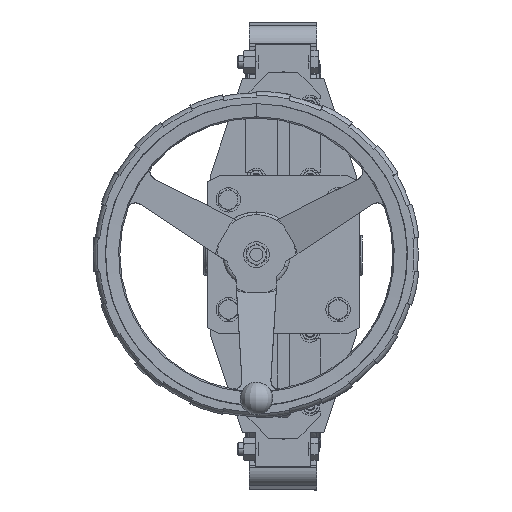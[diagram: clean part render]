
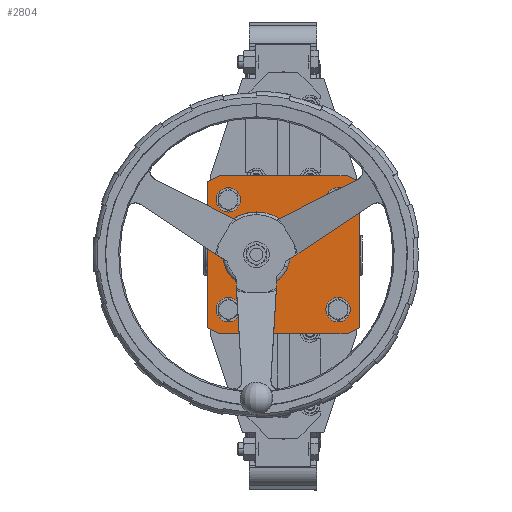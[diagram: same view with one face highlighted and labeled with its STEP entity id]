
A CAD part, top view. The second image highlights one B-rep face of the part: STEP entity #2804.
In plain terms, the highlighted planar face has unit normal (0, 0, 1).
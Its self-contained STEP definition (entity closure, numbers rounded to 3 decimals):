
#2804=ADVANCED_FACE('',(#8191,#8192,#8193,#8194,#8195,#8196),#8197,.F.);
#8191=FACE_BOUND('',#14197,.T.);
#8192=FACE_OUTER_BOUND('',#14198,.T.);
#8193=FACE_BOUND('',#14199,.T.);
#8194=FACE_BOUND('',#14200,.T.);
#8195=FACE_BOUND('',#14201,.T.);
#8196=FACE_BOUND('',#14202,.T.);
#8197=PLANE('',#14203);
#14197=EDGE_LOOP('',(#35570,#35571));
#14198=EDGE_LOOP('',(#35572,#35573,#35574,#35575,#35576,#35577,#35578,#35579));
#14199=EDGE_LOOP('',(#35580,#35581));
#14200=EDGE_LOOP('',(#35582,#35583));
#14201=EDGE_LOOP('',(#35584,#35585));
#14202=EDGE_LOOP('',(#35586,#35587));
#14203=AXIS2_PLACEMENT_3D('',#35588,#35589,#35590);
#35570=ORIENTED_EDGE('',*,*,#44202,.F.);
#35571=ORIENTED_EDGE('',*,*,#38776,.F.);
#35572=ORIENTED_EDGE('',*,*,#44050,.F.);
#35573=ORIENTED_EDGE('',*,*,#44049,.F.);
#35574=ORIENTED_EDGE('',*,*,#44046,.F.);
#35575=ORIENTED_EDGE('',*,*,#44044,.F.);
#35576=ORIENTED_EDGE('',*,*,#44042,.F.);
#35577=ORIENTED_EDGE('',*,*,#44041,.F.);
#35578=ORIENTED_EDGE('',*,*,#44038,.F.);
#35579=ORIENTED_EDGE('',*,*,#44036,.F.);
#35580=ORIENTED_EDGE('',*,*,#44034,.F.);
#35581=ORIENTED_EDGE('',*,*,#38788,.F.);
#35582=ORIENTED_EDGE('',*,*,#44033,.F.);
#35583=ORIENTED_EDGE('',*,*,#38792,.F.);
#35584=ORIENTED_EDGE('',*,*,#44032,.F.);
#35585=ORIENTED_EDGE('',*,*,#38796,.F.);
#35586=ORIENTED_EDGE('',*,*,#44031,.F.);
#35587=ORIENTED_EDGE('',*,*,#38800,.F.);
#35588=CARTESIAN_POINT('',(0.,0.,891.1));
#35589=DIRECTION('',(0.,0.,-1.));
#35590=DIRECTION('',(0.,1.,0.));
#38776=EDGE_CURVE('',#48010,#48006,#48012,.T.);
#38788=EDGE_CURVE('',#48033,#48029,#48035,.T.);
#38792=EDGE_CURVE('',#48041,#48037,#48043,.T.);
#38796=EDGE_CURVE('',#48049,#48045,#48051,.T.);
#38800=EDGE_CURVE('',#48057,#48053,#48059,.T.);
#44031=EDGE_CURVE('',#48053,#48057,#56508,.T.);
#44032=EDGE_CURVE('',#48045,#48049,#56509,.T.);
#44033=EDGE_CURVE('',#48037,#48041,#56510,.T.);
#44034=EDGE_CURVE('',#48029,#48033,#56511,.T.);
#44036=EDGE_CURVE('',#56512,#56514,#56515,.T.);
#44038=EDGE_CURVE('',#56514,#56517,#56518,.T.);
#44041=EDGE_CURVE('',#56517,#56520,#56522,.T.);
#44042=EDGE_CURVE('',#56520,#56523,#56524,.T.);
#44044=EDGE_CURVE('',#56523,#56526,#56527,.T.);
#44046=EDGE_CURVE('',#56526,#56529,#56530,.T.);
#44049=EDGE_CURVE('',#56529,#56532,#56534,.T.);
#44050=EDGE_CURVE('',#56532,#56512,#56535,.T.);
#44202=EDGE_CURVE('',#48006,#48010,#56747,.T.);
#48006=VERTEX_POINT('',#59659);
#48010=VERTEX_POINT('',#59664);
#48012=CIRCLE('',#59667,27.5);
#48029=VERTEX_POINT('',#59688);
#48033=VERTEX_POINT('',#59693);
#48035=CIRCLE('',#59696,15.);
#48037=VERTEX_POINT('',#59698);
#48041=VERTEX_POINT('',#59703);
#48043=CIRCLE('',#59706,15.);
#48045=VERTEX_POINT('',#59708);
#48049=VERTEX_POINT('',#59713);
#48051=CIRCLE('',#59716,15.);
#48053=VERTEX_POINT('',#59718);
#48057=VERTEX_POINT('',#59723);
#48059=CIRCLE('',#59726,15.);
#56508=CIRCLE('',#83673,15.);
#56509=CIRCLE('',#83674,15.);
#56510=CIRCLE('',#83675,15.);
#56511=CIRCLE('',#83676,15.);
#56512=VERTEX_POINT('',#83677);
#56514=VERTEX_POINT('',#83680);
#56515=LINE('',#83681,#83682);
#56517=VERTEX_POINT('',#83685);
#56518=LINE('',#83686,#83687);
#56520=VERTEX_POINT('',#83690);
#56522=LINE('',#83693,#83694);
#56523=VERTEX_POINT('',#83695);
#56524=LINE('',#83696,#83697);
#56526=VERTEX_POINT('',#83700);
#56527=LINE('',#83701,#83702);
#56529=VERTEX_POINT('',#83705);
#56530=LINE('',#83706,#83707);
#56532=VERTEX_POINT('',#83710);
#56534=LINE('',#83713,#83714);
#56535=LINE('',#83715,#83716);
#56747=CIRCLE('',#83988,27.5);
#59659=CARTESIAN_POINT('',(-5.5,0.,891.1));
#59664=CARTESIAN_POINT('',(-60.5,0.,891.1));
#59667=AXIS2_PLACEMENT_3D('',#88226,#88227,#88228);
#59688=CARTESIAN_POINT('',(-67.5,-82.5,891.1));
#59693=CARTESIAN_POINT('',(-67.5,-52.5,891.1));
#59696=AXIS2_PLACEMENT_3D('',#88250,#88251,#88252);
#59698=CARTESIAN_POINT('',(-67.5,52.5,891.1));
#59703=CARTESIAN_POINT('',(-67.5,82.5,891.1));
#59706=AXIS2_PLACEMENT_3D('',#88258,#88259,#88260);
#59708=CARTESIAN_POINT('',(67.5,52.5,891.1));
#59713=CARTESIAN_POINT('',(67.5,82.5,891.1));
#59716=AXIS2_PLACEMENT_3D('',#88266,#88267,#88268);
#59718=CARTESIAN_POINT('',(67.5,-82.5,891.1));
#59723=CARTESIAN_POINT('',(67.5,-52.5,891.1));
#59726=AXIS2_PLACEMENT_3D('',#88274,#88275,#88276);
#83673=AXIS2_PLACEMENT_3D('',#96317,#96318,#96319);
#83674=AXIS2_PLACEMENT_3D('',#96320,#96321,#96322);
#83675=AXIS2_PLACEMENT_3D('',#96323,#96324,#96325);
#83676=AXIS2_PLACEMENT_3D('',#96326,#96327,#96328);
#83677=CARTESIAN_POINT('',(78.5,-97.,891.1));
#83680=CARTESIAN_POINT('',(-78.5,-97.,891.1));
#83681=CARTESIAN_POINT('',(93.5,-97.,891.1));
#83682=VECTOR('',#96330,10.);
#83685=CARTESIAN_POINT('',(-93.5,-90.005,891.1));
#83686=CARTESIAN_POINT('',(-68.587,-101.623,891.1));
#83687=VECTOR('',#96332,10.);
#83690=CARTESIAN_POINT('',(-93.5,90.005,891.1));
#83693=CARTESIAN_POINT('',(-93.5,-97.,891.1));
#83694=VECTOR('',#96335,10.);
#83695=CARTESIAN_POINT('',(-78.5,97.,891.1));
#83696=CARTESIAN_POINT('',(-68.587,101.623,891.1));
#83697=VECTOR('',#96336,10.);
#83700=CARTESIAN_POINT('',(78.5,97.,891.1));
#83701=CARTESIAN_POINT('',(-93.5,97.,891.1));
#83702=VECTOR('',#96338,10.);
#83705=CARTESIAN_POINT('',(93.5,90.005,891.1));
#83706=CARTESIAN_POINT('',(68.587,101.623,891.1));
#83707=VECTOR('',#96340,10.);
#83710=CARTESIAN_POINT('',(93.5,-90.005,891.1));
#83713=CARTESIAN_POINT('',(93.5,97.,891.1));
#83714=VECTOR('',#96343,10.);
#83715=CARTESIAN_POINT('',(68.587,-101.623,891.1));
#83716=VECTOR('',#96344,10.);
#83988=AXIS2_PLACEMENT_3D('',#96678,#96679,#96680);
#88226=CARTESIAN_POINT('',(-33.,0.,891.1));
#88227=DIRECTION('',(0.,0.,1.));
#88228=DIRECTION('',(1.,0.,0.));
#88250=CARTESIAN_POINT('',(-67.5,-67.5,891.1));
#88251=DIRECTION('',(0.,0.,1.));
#88252=DIRECTION('',(0.,-1.,0.));
#88258=CARTESIAN_POINT('',(-67.5,67.5,891.1));
#88259=DIRECTION('',(0.,0.,1.));
#88260=DIRECTION('',(0.,-1.,0.));
#88266=CARTESIAN_POINT('',(67.5,67.5,891.1));
#88267=DIRECTION('',(0.,0.,1.));
#88268=DIRECTION('',(0.,-1.,0.));
#88274=CARTESIAN_POINT('',(67.5,-67.5,891.1));
#88275=DIRECTION('',(0.,0.,1.));
#88276=DIRECTION('',(0.,-1.,0.));
#96317=CARTESIAN_POINT('',(67.5,-67.5,891.1));
#96318=DIRECTION('',(0.,0.,1.));
#96319=DIRECTION('',(0.,-1.,0.));
#96320=CARTESIAN_POINT('',(67.5,67.5,891.1));
#96321=DIRECTION('',(0.,0.,1.));
#96322=DIRECTION('',(0.,-1.,0.));
#96323=CARTESIAN_POINT('',(-67.5,67.5,891.1));
#96324=DIRECTION('',(0.,0.,1.));
#96325=DIRECTION('',(0.,-1.,0.));
#96326=CARTESIAN_POINT('',(-67.5,-67.5,891.1));
#96327=DIRECTION('',(0.,0.,1.));
#96328=DIRECTION('',(0.,-1.,0.));
#96330=DIRECTION('',(-1.,0.,0.));
#96332=DIRECTION('',(-0.906,0.423,0.));
#96335=DIRECTION('',(0.,1.,0.));
#96336=DIRECTION('',(0.906,0.423,0.));
#96338=DIRECTION('',(1.,0.,0.));
#96340=DIRECTION('',(0.906,-0.423,0.));
#96343=DIRECTION('',(0.,-1.,0.));
#96344=DIRECTION('',(-0.906,-0.423,0.));
#96678=CARTESIAN_POINT('',(-33.,0.,891.1));
#96679=DIRECTION('',(0.,0.,1.));
#96680=DIRECTION('',(1.,0.,0.));
